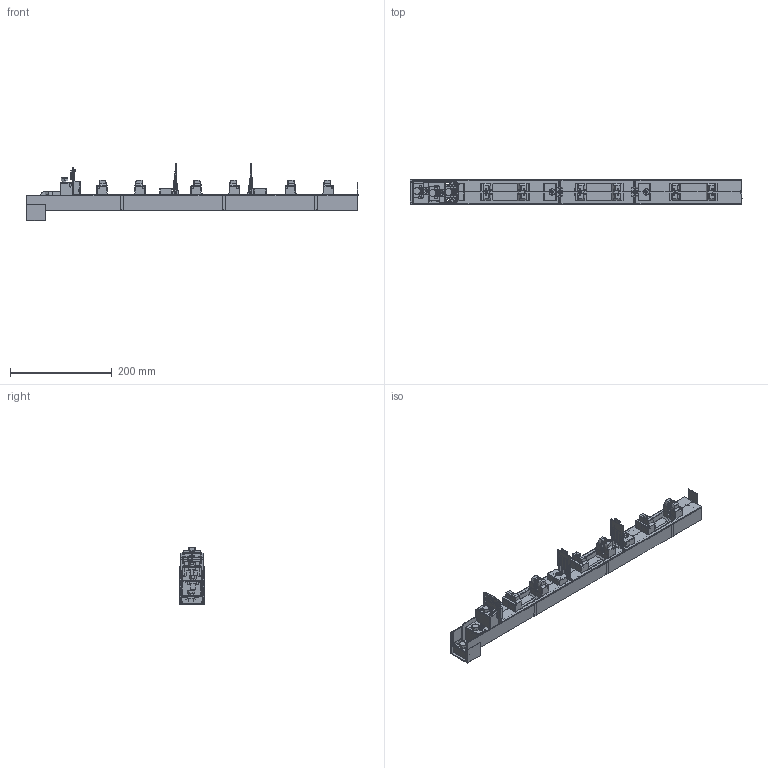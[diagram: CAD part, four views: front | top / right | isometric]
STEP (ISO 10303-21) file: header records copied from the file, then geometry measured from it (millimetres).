
FILE_DESCRIPTION (( 'STEP AP214' ), '1' );
FILE_NAME ('FSR00-3D-F.step', '2014-11-20T09:55:05', ( '' ), ( '' ), 'SwSTEP 2.0', 'SolidWorks 2011', '' );
FILE_SCHEMA (( 'AUTOMOTIVE_DESIGN' ));
Length unit declared in the file: millimetre
Products named in the file (1): FSR00-3D-F
Bounding box: 651.81 x 49.8 x 112.2 mm (x, y, z)
Volume: 347054.3 mm3; surface area: 404619.8 mm2
Topology: 16 solids, 16 shells, 6613 faces, 17451 edges, 10835 vertices
Faces by surface type: plane 2944, cylinder 1915, torus 610, cone 588, bspline 363, sphere 193
Entity records: 288060 total; most frequent: CARTESIAN_POINT 58040, ORIENTED_EDGE 34838, DIRECTION 31146, EDGE_CURVE 17419, VERTEX_POINT 10833, VECTOR 10594, LINE 10594, AXIS2_PLACEMENT_3D 10276
